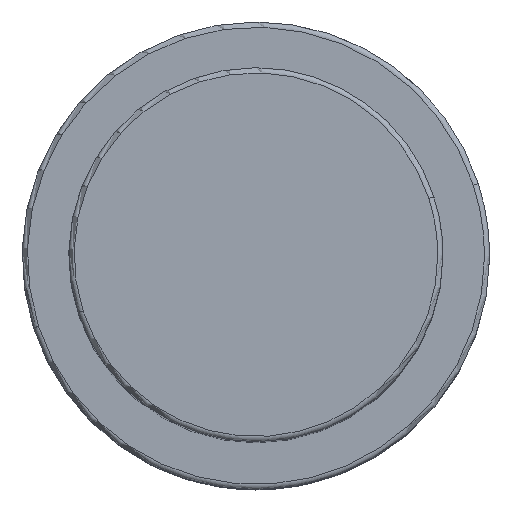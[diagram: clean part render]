
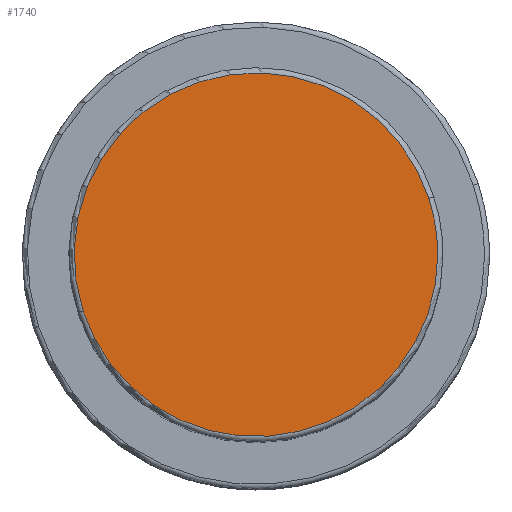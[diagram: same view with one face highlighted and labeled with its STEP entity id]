
A CAD part, top view. The second image highlights one B-rep face of the part: STEP entity #1740.
In plain terms, the highlighted planar face has unit normal (0, 0, 1).
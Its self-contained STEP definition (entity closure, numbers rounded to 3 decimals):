
#1706=CARTESIAN_POINT('',(17.5,0.0,83.0));
#1707=VERTEX_POINT('',#1706);
#1708=CARTESIAN_POINT('',(16.643,5.408,83.0));
#1709=VERTEX_POINT('',#1708);
#1710=CARTESIAN_POINT('',(0.0,0.0,83.0));
#1711=DIRECTION('',(0.0,0.0,1.0));
#1712=DIRECTION('',(1.0,0.0,0.0));
#1713=AXIS2_PLACEMENT_3D('',#1710,#1711,#1712);
#1714=CIRCLE('',#1713,17.5);
#1715=EDGE_CURVE('no 1914',#1707,#1709,#1714,.T.);
#1716=ORIENTED_EDGE('',*,*,#1715,.T.);
#1717=CARTESIAN_POINT('',(-16.643,-5.408,83.0));
#1718=VERTEX_POINT('',#1717);
#1719=CARTESIAN_POINT('',(0.0,0.0,83.0));
#1720=DIRECTION('',(0.0,0.0,1.0));
#1721=DIRECTION('',(1.0,0.0,0.0));
#1722=AXIS2_PLACEMENT_3D('',#1719,#1720,#1721);
#1723=CIRCLE('',#1722,17.5);
#1724=EDGE_CURVE('no 1920',#1709,#1718,#1723,.T.);
#1725=ORIENTED_EDGE('',*,*,#1724,.T.);
#1726=CARTESIAN_POINT('',(0.0,0.0,83.0));
#1727=DIRECTION('',(0.0,0.0,1.0));
#1728=DIRECTION('',(1.0,0.0,0.0));
#1729=AXIS2_PLACEMENT_3D('',#1726,#1727,#1728);
#1730=CIRCLE('',#1729,17.5);
#1731=EDGE_CURVE('no 1924',#1718,#1707,#1730,.T.);
#1732=ORIENTED_EDGE('',*,*,#1731,.T.);
#1733=EDGE_LOOP('',(#1716,#1725,#1732));
#1734=FACE_OUTER_BOUND('',#1733,.T.);
#1735=CARTESIAN_POINT('',(0.0,0.0,83.0));
#1736=DIRECTION('',(0.0,0.0,1.0));
#1737=DIRECTION('',(1.0,0.0,0.0));
#1738=AXIS2_PLACEMENT_3D('',#1735,#1736,#1737);
#1739=PLANE('',#1738);
#1740=ADVANCED_FACE('no 1905',(#1734),#1739,.T.);
